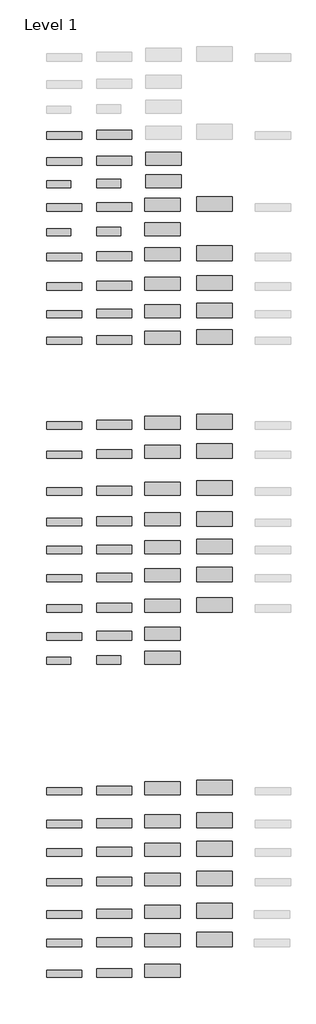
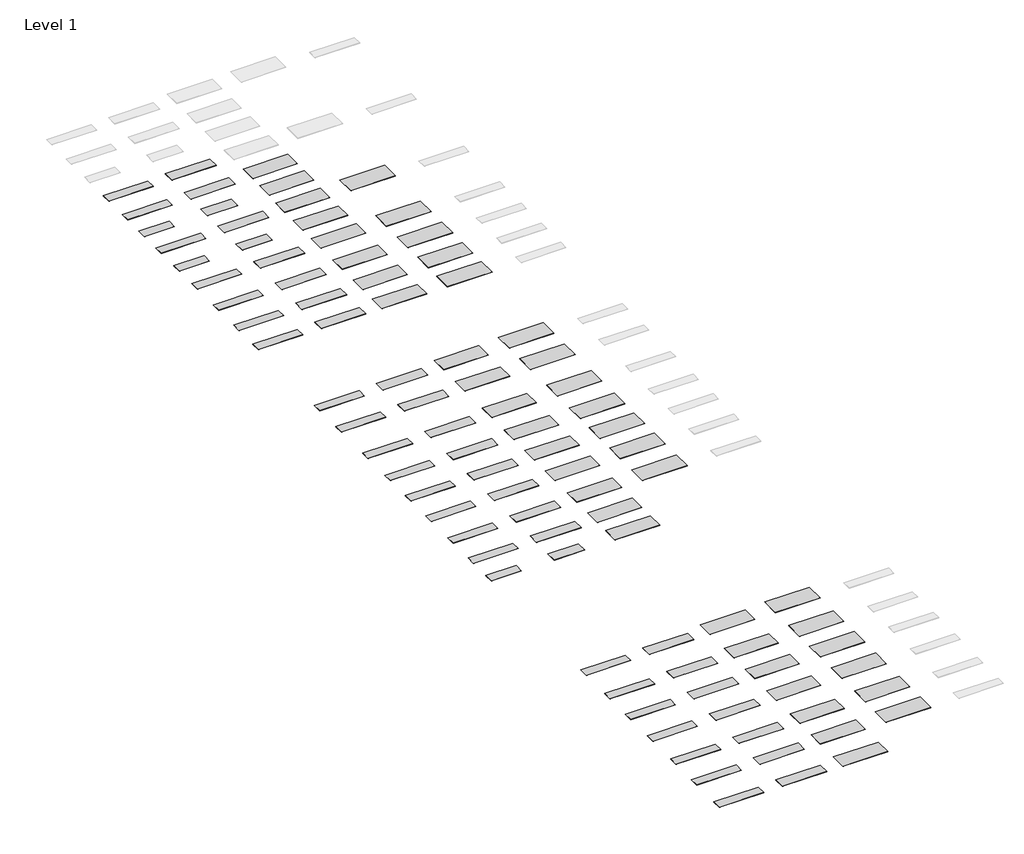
# One storey, part 1 of 2: 92 proxies.
"""IFC4 building model written with IfcOpenShell, lengths in millimetres."""

from ifc_helpers import new_model, si_unit, origin, place, context, project, spatial, transform, mapped, element, save
from components import s001_satin_white_12mm_760x3680mm_7f56e2ab, s001_satin_white_12mm_910x3680mm_ebb0e17e, s001_satin_white_12mm_1350x3680mm_c2ce3097, s001_satin_white_12mm_1520x3680mm_bc4f7f2a, s001_satin_white_6mm_760x2490mm_c0a7b58a, s001_satin_white_6mm_910x2490mm_29e5721c

model = new_model("IFC4")

# Units and contexts
model_context = context("Model", 3, world=origin())
ifc_project = project(units=[si_unit("LENGTHUNIT", "METRE", prefix="MILLI")], contexts=[model_context])

# Site, building, storey
site = spatial("IfcSite", under=ifc_project)
building = spatial("IfcBuilding", under=site)
storey = spatial("IfcBuildingStorey", under=building, Name="Level 1", Elevation=0.0)

# Proxies
placement = place(None, origin())
s001_satin_white_12mm_760x3680mm_shape = s001_satin_white_12mm_760x3680mm_7f56e2ab(model_context)
element("IfcBuildingElementProxy", 1, Name="Kitchen_Counter-Tops_Indoor-Material_HI-MACS_Solids : S102_Babylon-Beige_12mm_760x3680mm", ObjectType="Kitchen_Counter-Tops_Indoor-Material_HI-MACS_Solids : S102_Babylon-Beige_12mm_760x3680mm", at=placement, inside=storey, context=model_context, shape_type="MappedRepresentation", body=[
    mapped(s001_satin_white_12mm_760x3680mm_shape, transform((-20811.8590579, -68063.8627083, 0.0), x_axis=(1.0, 0.0, 0.0), y_axis=(0.0, 1.0, 0.0), z_axis=(0.0, 0.0, 1.0))),
])
element("IfcBuildingElementProxy", 2, Name="Kitchen_Counter-Tops_Indoor-Material_HI-MACS_Solids : S108_Marta-Grey_12mm_760x3680mm", ObjectType="Kitchen_Counter-Tops_Indoor-Material_HI-MACS_Solids : S108_Marta-Grey_12mm_760x3680mm", at=placement, inside=storey, context=model_context, shape_type="MappedRepresentation", body=[
    mapped(s001_satin_white_12mm_760x3680mm_shape, transform((-20811.8590579, -79611.6390607, 0.0), x_axis=(1.0, 0.0, 0.0), y_axis=(0.0, 1.0, 0.0), z_axis=(0.0, 0.0, 1.0))),
])
element("IfcBuildingElementProxy", 3, Name="Kitchen_Counter-Tops_Indoor-Material_HI-MACS_Solids : S025_Fiery-Red_12mm_760x3680mm", ObjectType="Kitchen_Counter-Tops_Indoor-Material_HI-MACS_Solids : S025_Fiery-Red_12mm_760x3680mm", at=placement, inside=storey, context=model_context, shape_type="MappedRepresentation", body=[
    mapped(s001_satin_white_12mm_760x3680mm_shape, transform((-20811.8590579, -92576.3180558, 0.0), x_axis=(1.0, 0.0, 0.0), y_axis=(0.0, 1.0, 0.0), z_axis=(0.0, 0.0, 1.0))),
])
element("IfcBuildingElementProxy", 4, Name="Kitchen_Counter-Tops_Indoor-Material_HI-MACS_Solids : S115_Deep-Indigo_12mm_760x3680mm", ObjectType="Kitchen_Counter-Tops_Indoor-Material_HI-MACS_Solids : S115_Deep-Indigo_12mm_760x3680mm", at=placement, inside=storey, context=model_context, shape_type="MappedRepresentation", body=[
    mapped(s001_satin_white_12mm_760x3680mm_shape, transform((-20811.8590579, -123994.5445632, 0.0), x_axis=(1.0, 0.0, 0.0), y_axis=(0.0, 1.0, 0.0), z_axis=(0.0, 0.0, 1.0))),
])
s001_satin_white_12mm_910x3680mm_shape = s001_satin_white_12mm_910x3680mm_ebb0e17e(model_context)
element("IfcBuildingElementProxy", 5, Name="Kitchen_Counter-Tops_Indoor-Material_HI-MACS_Solids : S102_Babylon-Beige_12mm_910x3680mm", ObjectType="Kitchen_Counter-Tops_Indoor-Material_HI-MACS_Solids : S102_Babylon-Beige_12mm_910x3680mm", at=placement, inside=storey, context=model_context, shape_type="MappedRepresentation", body=[
    mapped(s001_satin_white_12mm_910x3680mm_shape, transform((-15611.8590579, -67988.8627083, 0.0), x_axis=(1.0, 0.0, 0.0), y_axis=(0.0, 1.0, 0.0), z_axis=(0.0, 0.0, 1.0))),
])
s001_satin_white_12mm_1350x3680mm_shape = s001_satin_white_12mm_1350x3680mm_c2ce3097(model_context)
element("IfcBuildingElementProxy", 6, Name="Kitchen_Counter-Tops_Indoor-Material_HI-MACS_Solids : S102_Babylon-Beige_12mm_1350x3680mm", ObjectType="Kitchen_Counter-Tops_Indoor-Material_HI-MACS_Solids : S102_Babylon-Beige_12mm_1350x3680mm", at=placement, inside=storey, context=model_context, shape_type="MappedRepresentation", body=[
    mapped(s001_satin_white_12mm_1350x3680mm_shape, transform((-10611.8590579, -67768.8627083, 0.0), x_axis=(1.0, 0.0, 0.0), y_axis=(0.0, 1.0, 0.0), z_axis=(0.0, 0.0, 1.0))),
])
s001_satin_white_12mm_1520x3680mm_shape = s001_satin_white_12mm_1520x3680mm_bc4f7f2a(model_context)
element("IfcBuildingElementProxy", 7, Name="Kitchen_Counter-Tops_Indoor-Material_HI-MACS_Solids : S102_Babylon-Beige_12mm_1520x3680mm", ObjectType="Kitchen_Counter-Tops_Indoor-Material_HI-MACS_Solids : S102_Babylon-Beige_12mm_1520x3680mm", at=placement, inside=storey, context=model_context, shape_type="MappedRepresentation", body=[
    mapped(s001_satin_white_12mm_1520x3680mm_shape, transform((-5211.8590579, -67683.8627083, 0.0), x_axis=(1.0, 0.0, 0.0), y_axis=(0.0, 1.0, 0.0), z_axis=(0.0, 0.0, 1.0))),
])
element("IfcBuildingElementProxy", 8, Name="Kitchen_Counter-Tops_Indoor-Material_HI-MACS_Solids : S108_Marta-Grey_12mm_910x3680mm", ObjectType="Kitchen_Counter-Tops_Indoor-Material_HI-MACS_Solids : S108_Marta-Grey_12mm_910x3680mm", at=placement, inside=storey, context=model_context, shape_type="MappedRepresentation", body=[
    mapped(s001_satin_white_12mm_910x3680mm_shape, transform((-15611.8590579, -79536.6390607, 0.0), x_axis=(1.0, 0.0, 0.0), y_axis=(0.0, 1.0, 0.0), z_axis=(0.0, 0.0, 1.0))),
])
element("IfcBuildingElementProxy", 9, Name="Kitchen_Counter-Tops_Indoor-Material_HI-MACS_Solids : S108_Marta-Grey_12mm_1350x3680mm", ObjectType="Kitchen_Counter-Tops_Indoor-Material_HI-MACS_Solids : S108_Marta-Grey_12mm_1350x3680mm", at=placement, inside=storey, context=model_context, shape_type="MappedRepresentation", body=[
    mapped(s001_satin_white_12mm_1350x3680mm_shape, transform((-10611.8590579, -79316.6390607, 0.0), x_axis=(1.0, 0.0, 0.0), y_axis=(0.0, 1.0, 0.0), z_axis=(0.0, 0.0, 1.0))),
])
element("IfcBuildingElementProxy", 10, Name="Kitchen_Counter-Tops_Indoor-Material_HI-MACS_Solids : S108_Marta-Grey_12mm_1520x3680mm", ObjectType="Kitchen_Counter-Tops_Indoor-Material_HI-MACS_Solids : S108_Marta-Grey_12mm_1520x3680mm", at=placement, inside=storey, context=model_context, shape_type="MappedRepresentation", body=[
    mapped(s001_satin_white_12mm_1520x3680mm_shape, transform((-5211.8590579, -79231.6390607, 0.0), x_axis=(1.0, 0.0, 0.0), y_axis=(0.0, 1.0, 0.0), z_axis=(0.0, 0.0, 1.0))),
])
element("IfcBuildingElementProxy", 11, Name="Kitchen_Counter-Tops_Indoor-Material_HI-MACS_Solids : S025_Fiery-Red_12mm_910x3680mm", ObjectType="Kitchen_Counter-Tops_Indoor-Material_HI-MACS_Solids : S025_Fiery-Red_12mm_910x3680mm", at=placement, inside=storey, context=model_context, shape_type="MappedRepresentation", body=[
    mapped(s001_satin_white_12mm_910x3680mm_shape, transform((-15611.8590579, -92501.3180558, 0.0), x_axis=(1.0, 0.0, 0.0), y_axis=(0.0, 1.0, 0.0), z_axis=(0.0, 0.0, 1.0))),
])
element("IfcBuildingElementProxy", 12, Name="Kitchen_Counter-Tops_Indoor-Material_HI-MACS_Solids : S025_Fiery-Red_12mm_1350x3680mm", ObjectType="Kitchen_Counter-Tops_Indoor-Material_HI-MACS_Solids : S025_Fiery-Red_12mm_1350x3680mm", at=placement, inside=storey, context=model_context, shape_type="MappedRepresentation", body=[
    mapped(s001_satin_white_12mm_1350x3680mm_shape, transform((-10611.8590579, -92281.3180558, 0.0), x_axis=(1.0, 0.0, 0.0), y_axis=(0.0, 1.0, 0.0), z_axis=(0.0, 0.0, 1.0))),
])
element("IfcBuildingElementProxy", 13, Name="Kitchen_Counter-Tops_Indoor-Material_HI-MACS_Solids : S025_Fiery-Red_12mm_1520x3680mm", ObjectType="Kitchen_Counter-Tops_Indoor-Material_HI-MACS_Solids : S025_Fiery-Red_12mm_1520x3680mm", at=placement, inside=storey, context=model_context, shape_type="MappedRepresentation", body=[
    mapped(s001_satin_white_12mm_1520x3680mm_shape, transform((-5211.8590579, -92196.3180558, 0.0), x_axis=(1.0, 0.0, 0.0), y_axis=(0.0, 1.0, 0.0), z_axis=(0.0, 0.0, 1.0))),
])
element("IfcBuildingElementProxy", 14, Name="Kitchen_Counter-Tops_Indoor-Material_HI-MACS_Solids : S115_Deep-Indigo_12mm_910x3680mm", ObjectType="Kitchen_Counter-Tops_Indoor-Material_HI-MACS_Solids : S115_Deep-Indigo_12mm_910x3680mm", at=placement, inside=storey, context=model_context, shape_type="MappedRepresentation", body=[
    mapped(s001_satin_white_12mm_910x3680mm_shape, transform((-15611.8590579, -123919.5445632, 0.0), x_axis=(1.0, 0.0, 0.0), y_axis=(0.0, 1.0, 0.0), z_axis=(0.0, 0.0, 1.0))),
])
element("IfcBuildingElementProxy", 15, Name="Kitchen_Counter-Tops_Indoor-Material_HI-MACS_Solids : S115_Deep-Indigo_12mm_1350x3680mm", ObjectType="Kitchen_Counter-Tops_Indoor-Material_HI-MACS_Solids : S115_Deep-Indigo_12mm_1350x3680mm", at=placement, inside=storey, context=model_context, shape_type="MappedRepresentation", body=[
    mapped(s001_satin_white_12mm_1350x3680mm_shape, transform((-10611.8590579, -123699.5445632, 0.0), x_axis=(1.0, 0.0, 0.0), y_axis=(0.0, 1.0, 0.0), z_axis=(0.0, 0.0, 1.0))),
])
element("IfcBuildingElementProxy", 16, Name="Kitchen_Counter-Tops_Indoor-Material_HI-MACS_Solids : S115_Deep-Indigo_12mm_1520x3680mm", ObjectType="Kitchen_Counter-Tops_Indoor-Material_HI-MACS_Solids : S115_Deep-Indigo_12mm_1520x3680mm", at=placement, inside=storey, context=model_context, shape_type="MappedRepresentation", body=[
    mapped(s001_satin_white_12mm_1520x3680mm_shape, transform((-5211.8590579, -123614.5445632, 0.0), x_axis=(1.0, 0.0, 0.0), y_axis=(0.0, 1.0, 0.0), z_axis=(0.0, 0.0, 1.0))),
])
element("IfcBuildingElementProxy", 17, Name="Kitchen_Counter-Tops_Indoor-Material_HI-MACS_Solids : S001_Satin-White_12mm_760x3680mm", ObjectType="Kitchen_Counter-Tops_Indoor-Material_HI-MACS_Solids : S001_Satin-White_12mm_760x3680mm", at=placement, inside=storey, context=model_context, shape_type="MappedRepresentation", body=[
    mapped(s001_satin_white_12mm_760x3680mm_shape, transform((-20812.5064865, -49472.1888204, 0.0), x_axis=(1.0, 0.0, 0.0), y_axis=(0.0, 1.0, 0.0), z_axis=(0.0, 0.0, 1.0))),
])
element("IfcBuildingElementProxy", 18, Name="Kitchen_Counter-Tops_Indoor-Material_HI-MACS_Solids : S001_Satin-White_12mm_910x3680mm", ObjectType="Kitchen_Counter-Tops_Indoor-Material_HI-MACS_Solids : S001_Satin-White_12mm_910x3680mm", at=placement, inside=storey, context=model_context, shape_type="MappedRepresentation", body=[
    mapped(s001_satin_white_12mm_910x3680mm_shape, transform((-15611.8590579, -49397.1888204, 0.0), x_axis=(1.0, 0.0, 0.0), y_axis=(0.0, 1.0, 0.0), z_axis=(0.0, 0.0, 1.0))),
])
element("IfcBuildingElementProxy", 19, Name="Kitchen_Counter-Tops_Indoor-Material_HI-MACS_Solids : S001_Satin-White_6mm_1350x3680mm", ObjectType="Kitchen_Counter-Tops_Indoor-Material_HI-MACS_Solids : S001_Satin-White_6mm_1350x3680mm", at=placement, inside=storey, context=model_context, shape_type="MappedRepresentation", body=[
    mapped(s001_satin_white_12mm_1350x3680mm_shape, transform((-10511.8590579, -54257.1888204, 0.0), x_axis=(1.0, 0.0, 0.0), y_axis=(0.0, 1.0, 0.0), z_axis=(0.0, 0.0, 1.0))),
])
s001_satin_white_6mm_760x2490mm_shape = s001_satin_white_6mm_760x2490mm_c0a7b58a(model_context)
element("IfcBuildingElementProxy", 20, Name="Kitchen_Counter-Tops_Indoor-Material_HI-MACS_Solids : S001_Satin-White_6mm_760x2490mm", ObjectType="Kitchen_Counter-Tops_Indoor-Material_HI-MACS_Solids : S001_Satin-White_6mm_760x2490mm", at=placement, inside=storey, context=model_context, shape_type="MappedRepresentation", body=[
    mapped(s001_satin_white_6mm_760x2490mm_shape, transform((-21407.5064865, -54552.1888204, 0.0), x_axis=(1.0, 0.0, 0.0), y_axis=(0.0, 1.0, 0.0), z_axis=(0.0, 0.0, 1.0))),
])
s001_satin_white_6mm_910x2490mm_shape = s001_satin_white_6mm_910x2490mm_29e5721c(model_context)
element("IfcBuildingElementProxy", 21, Name="Kitchen_Counter-Tops_Indoor-Material_HI-MACS_Solids : S001_Satin-White_6mm_910x2490mm", ObjectType="Kitchen_Counter-Tops_Indoor-Material_HI-MACS_Solids : S001_Satin-White_6mm_910x2490mm", at=placement, inside=storey, context=model_context, shape_type="MappedRepresentation", body=[
    mapped(s001_satin_white_6mm_910x2490mm_shape, transform((-16206.8590579, -54477.1888204, 0.0), x_axis=(1.0, 0.0, 0.0), y_axis=(0.0, 1.0, 0.0), z_axis=(0.0, 0.0, 1.0))),
])
element("IfcBuildingElementProxy", 22, Name="Kitchen_Counter-Tops_Indoor-Material_HI-MACS_Solids : S001_Satin-White_9mm_1350x3680mm", ObjectType="Kitchen_Counter-Tops_Indoor-Material_HI-MACS_Solids : S001_Satin-White_9mm_1350x3680mm", at=placement, inside=storey, context=model_context, shape_type="MappedRepresentation", body=[
    mapped(s001_satin_white_12mm_1350x3680mm_shape, transform((-10511.8590579, -51877.1888204, 0.0), x_axis=(1.0, 0.0, 0.0), y_axis=(0.0, 1.0, 0.0), z_axis=(0.0, 0.0, 1.0))),
])
element("IfcBuildingElementProxy", 23, Name="Kitchen_Counter-Tops_Indoor-Material_HI-MACS_Solids : S001_Satin-White_9mm_760x3680mm", ObjectType="Kitchen_Counter-Tops_Indoor-Material_HI-MACS_Solids : S001_Satin-White_9mm_760x3680mm", at=placement, inside=storey, context=model_context, shape_type="MappedRepresentation", body=[
    mapped(s001_satin_white_12mm_760x3680mm_shape, transform((-20812.5064865, -52172.1888204, 0.0), x_axis=(1.0, 0.0, 0.0), y_axis=(0.0, 1.0, 0.0), z_axis=(0.0, 0.0, 1.0))),
])
element("IfcBuildingElementProxy", 24, Name="Kitchen_Counter-Tops_Indoor-Material_HI-MACS_Solids : S001_Satin-White_9mm_910x3680mm", ObjectType="Kitchen_Counter-Tops_Indoor-Material_HI-MACS_Solids : S001_Satin-White_9mm_910x3680mm", at=placement, inside=storey, context=model_context, shape_type="MappedRepresentation", body=[
    mapped(s001_satin_white_12mm_910x3680mm_shape, transform((-15611.8590579, -52097.1888204, 0.0), x_axis=(1.0, 0.0, 0.0), y_axis=(0.0, 1.0, 0.0), z_axis=(0.0, 0.0, 1.0))),
])
element("IfcBuildingElementProxy", 25, Name="Kitchen_Counter-Tops_Indoor-Material_HI-MACS_Solids : S002_Almond_12mm_1350x3680mm", ObjectType="Kitchen_Counter-Tops_Indoor-Material_HI-MACS_Solids : S002_Almond_12mm_1350x3680mm", at=placement, inside=storey, context=model_context, shape_type="MappedRepresentation", body=[
    mapped(s001_satin_white_12mm_1350x3680mm_shape, transform((-10611.8590579, -64877.1888204, 0.0), x_axis=(1.0, 0.0, 0.0), y_axis=(0.0, 1.0, 0.0), z_axis=(0.0, 0.0, 1.0))),
])
element("IfcBuildingElementProxy", 26, Name="Kitchen_Counter-Tops_Indoor-Material_HI-MACS_Solids : S002_Almond_12mm_1520x3680mm", ObjectType="Kitchen_Counter-Tops_Indoor-Material_HI-MACS_Solids : S002_Almond_12mm_1520x3680mm", at=placement, inside=storey, context=model_context, shape_type="MappedRepresentation", body=[
    mapped(s001_satin_white_12mm_1520x3680mm_shape, transform((-5211.8590579, -64792.1888204, 0.0), x_axis=(1.0, 0.0, 0.0), y_axis=(0.0, 1.0, 0.0), z_axis=(0.0, 0.0, 1.0))),
])
element("IfcBuildingElementProxy", 27, Name="Kitchen_Counter-Tops_Indoor-Material_HI-MACS_Solids : S002_Almond_12mm_760x3680mm", ObjectType="Kitchen_Counter-Tops_Indoor-Material_HI-MACS_Solids : S002_Almond_12mm_760x3680mm", at=placement, inside=storey, context=model_context, shape_type="MappedRepresentation", body=[
    mapped(s001_satin_white_12mm_760x3680mm_shape, transform((-20811.8590579, -65172.1888204, 0.0), x_axis=(1.0, 0.0, 0.0), y_axis=(0.0, 1.0, 0.0), z_axis=(0.0, 0.0, 1.0))),
])
element("IfcBuildingElementProxy", 28, Name="Kitchen_Counter-Tops_Indoor-Material_HI-MACS_Solids : S002_Almond_12mm_910x3680mm", ObjectType="Kitchen_Counter-Tops_Indoor-Material_HI-MACS_Solids : S002_Almond_12mm_910x3680mm", at=placement, inside=storey, context=model_context, shape_type="MappedRepresentation", body=[
    mapped(s001_satin_white_12mm_910x3680mm_shape, transform((-15611.8590579, -65097.1888204, 0.0), x_axis=(1.0, 0.0, 0.0), y_axis=(0.0, 1.0, 0.0), z_axis=(0.0, 0.0, 1.0))),
])
element("IfcBuildingElementProxy", 29, Name="Kitchen_Counter-Tops_Indoor-Material_HI-MACS_Solids : S005_Grey_12mm_1350x3680mm", ObjectType="Kitchen_Counter-Tops_Indoor-Material_HI-MACS_Solids : S005_Grey_12mm_1350x3680mm", at=placement, inside=storey, context=model_context, shape_type="MappedRepresentation", body=[
    mapped(s001_satin_white_12mm_1350x3680mm_shape, transform((-10611.8590579, -98342.3328205, 0.0), x_axis=(1.0, 0.0, 0.0), y_axis=(0.0, 1.0, 0.0), z_axis=(0.0, 0.0, 1.0))),
])
element("IfcBuildingElementProxy", 30, Name="Kitchen_Counter-Tops_Indoor-Material_HI-MACS_Solids : S005_Grey_12mm_1520x3680mm", ObjectType="Kitchen_Counter-Tops_Indoor-Material_HI-MACS_Solids : S005_Grey_12mm_1520x3680mm", at=placement, inside=storey, context=model_context, shape_type="MappedRepresentation", body=[
    mapped(s001_satin_white_12mm_1520x3680mm_shape, transform((-5211.8590579, -98257.3328205, 0.0), x_axis=(1.0, 0.0, 0.0), y_axis=(0.0, 1.0, 0.0), z_axis=(0.0, 0.0, 1.0))),
])
element("IfcBuildingElementProxy", 31, Name="Kitchen_Counter-Tops_Indoor-Material_HI-MACS_Solids : S005_Grey_12mm_760x3680mm", ObjectType="Kitchen_Counter-Tops_Indoor-Material_HI-MACS_Solids : S005_Grey_12mm_760x3680mm", at=placement, inside=storey, context=model_context, shape_type="MappedRepresentation", body=[
    mapped(s001_satin_white_12mm_760x3680mm_shape, transform((-20811.8590579, -98637.3328205, 0.0), x_axis=(1.0, 0.0, 0.0), y_axis=(0.0, 1.0, 0.0), z_axis=(0.0, 0.0, 1.0))),
])
element("IfcBuildingElementProxy", 32, Name="Kitchen_Counter-Tops_Indoor-Material_HI-MACS_Solids : S005_Grey_12mm_910x3680mm", ObjectType="Kitchen_Counter-Tops_Indoor-Material_HI-MACS_Solids : S005_Grey_12mm_910x3680mm", at=placement, inside=storey, context=model_context, shape_type="MappedRepresentation", body=[
    mapped(s001_satin_white_12mm_910x3680mm_shape, transform((-15611.8590579, -98562.3328205, 0.0), x_axis=(1.0, 0.0, 0.0), y_axis=(0.0, 1.0, 0.0), z_axis=(0.0, 0.0, 1.0))),
])
element("IfcBuildingElementProxy", 33, Name="Kitchen_Counter-Tops_Indoor-Material_HI-MACS_Solids : S005_Grey_6mm_1350x3680mm", ObjectType="Kitchen_Counter-Tops_Indoor-Material_HI-MACS_Solids : S005_Grey_6mm_1350x3680mm", at=placement, inside=storey, context=model_context, shape_type="MappedRepresentation", body=[
    mapped(s001_satin_white_12mm_1350x3680mm_shape, transform((-10611.8590579, -103782.3328205, 0.0), x_axis=(1.0, 0.0, 0.0), y_axis=(0.0, 1.0, 0.0), z_axis=(0.0, 0.0, 1.0))),
])
element("IfcBuildingElementProxy", 34, Name="Kitchen_Counter-Tops_Indoor-Material_HI-MACS_Solids : S005_Grey_6mm_760x2490mm", ObjectType="Kitchen_Counter-Tops_Indoor-Material_HI-MACS_Solids : S005_Grey_6mm_760x2490mm", at=placement, inside=storey, context=model_context, shape_type="MappedRepresentation", body=[
    mapped(s001_satin_white_6mm_760x2490mm_shape, transform((-21406.8590579, -104077.3328205, 0.0), x_axis=(1.0, 0.0, 0.0), y_axis=(0.0, 1.0, 0.0), z_axis=(0.0, 0.0, 1.0))),
])
element("IfcBuildingElementProxy", 35, Name="Kitchen_Counter-Tops_Indoor-Material_HI-MACS_Solids : S005_Grey_6mm_910x2490mm", ObjectType="Kitchen_Counter-Tops_Indoor-Material_HI-MACS_Solids : S005_Grey_6mm_910x2490mm", at=placement, inside=storey, context=model_context, shape_type="MappedRepresentation", body=[
    mapped(s001_satin_white_6mm_910x2490mm_shape, transform((-16206.8590579, -104002.3328205, 0.0), x_axis=(1.0, 0.0, 0.0), y_axis=(0.0, 1.0, 0.0), z_axis=(0.0, 0.0, 1.0))),
])
element("IfcBuildingElementProxy", 36, Name="Kitchen_Counter-Tops_Indoor-Material_HI-MACS_Solids : S005_Grey_9mm_1350x3680mm", ObjectType="Kitchen_Counter-Tops_Indoor-Material_HI-MACS_Solids : S005_Grey_9mm_1350x3680mm", at=placement, inside=storey, context=model_context, shape_type="MappedRepresentation", body=[
    mapped(s001_satin_white_12mm_1350x3680mm_shape, transform((-10611.8590579, -101242.3328205, 0.0), x_axis=(1.0, 0.0, 0.0), y_axis=(0.0, 1.0, 0.0), z_axis=(0.0, 0.0, 1.0))),
])
element("IfcBuildingElementProxy", 37, Name="Kitchen_Counter-Tops_Indoor-Material_HI-MACS_Solids : S005_Grey_9mm_760x3680mm", ObjectType="Kitchen_Counter-Tops_Indoor-Material_HI-MACS_Solids : S005_Grey_9mm_760x3680mm", at=placement, inside=storey, context=model_context, shape_type="MappedRepresentation", body=[
    mapped(s001_satin_white_12mm_760x3680mm_shape, transform((-20811.8590579, -101537.3328205, 0.0), x_axis=(1.0, 0.0, 0.0), y_axis=(0.0, 1.0, 0.0), z_axis=(0.0, 0.0, 1.0))),
])
element("IfcBuildingElementProxy", 38, Name="Kitchen_Counter-Tops_Indoor-Material_HI-MACS_Solids : S005_Grey_9mm_910x3680mm", ObjectType="Kitchen_Counter-Tops_Indoor-Material_HI-MACS_Solids : S005_Grey_9mm_910x3680mm", at=placement, inside=storey, context=model_context, shape_type="MappedRepresentation", body=[
    mapped(s001_satin_white_12mm_910x3680mm_shape, transform((-15611.8590579, -101462.3328205, 0.0), x_axis=(1.0, 0.0, 0.0), y_axis=(0.0, 1.0, 0.0), z_axis=(0.0, 0.0, 1.0))),
])
element("IfcBuildingElementProxy", 39, Name="Kitchen_Counter-Tops_Indoor-Material_HI-MACS_Solids : S009_Cream_12mm_1350x3680mm", ObjectType="Kitchen_Counter-Tops_Indoor-Material_HI-MACS_Solids : S009_Cream_12mm_1350x3680mm", at=placement, inside=storey, context=model_context, shape_type="MappedRepresentation", body=[
    mapped(s001_satin_white_12mm_1350x3680mm_shape, transform((-10611.8590579, -56684.5477152, 0.0), x_axis=(1.0, 0.0, 0.0), y_axis=(0.0, 1.0, 0.0), z_axis=(0.0, 0.0, 1.0))),
])
element("IfcBuildingElementProxy", 40, Name="Kitchen_Counter-Tops_Indoor-Material_HI-MACS_Solids : S009_Cream_12mm_1520x3680mm", ObjectType="Kitchen_Counter-Tops_Indoor-Material_HI-MACS_Solids : S009_Cream_12mm_1520x3680mm", at=placement, inside=storey, context=model_context, shape_type="MappedRepresentation", body=[
    mapped(s001_satin_white_12mm_1520x3680mm_shape, transform((-5211.8590579, -56599.5477152, 0.0), x_axis=(1.0, 0.0, 0.0), y_axis=(0.0, 1.0, 0.0), z_axis=(0.0, 0.0, 1.0))),
])
element("IfcBuildingElementProxy", 41, Name="Kitchen_Counter-Tops_Indoor-Material_HI-MACS_Solids : S009_Cream_12mm_760x3680mm", ObjectType="Kitchen_Counter-Tops_Indoor-Material_HI-MACS_Solids : S009_Cream_12mm_760x3680mm", at=placement, inside=storey, context=model_context, shape_type="MappedRepresentation", body=[
    mapped(s001_satin_white_12mm_760x3680mm_shape, transform((-20812.5064865, -56979.5477152, 0.0), x_axis=(1.0, 0.0, 0.0), y_axis=(0.0, 1.0, 0.0), z_axis=(0.0, 0.0, 1.0))),
])
element("IfcBuildingElementProxy", 42, Name="Kitchen_Counter-Tops_Indoor-Material_HI-MACS_Solids : S009_Cream_12mm_910x3680mm", ObjectType="Kitchen_Counter-Tops_Indoor-Material_HI-MACS_Solids : S009_Cream_12mm_910x3680mm", at=placement, inside=storey, context=model_context, shape_type="MappedRepresentation", body=[
    mapped(s001_satin_white_12mm_910x3680mm_shape, transform((-15611.8590579, -56904.5477152, 0.0), x_axis=(1.0, 0.0, 0.0), y_axis=(0.0, 1.0, 0.0), z_axis=(0.0, 0.0, 1.0))),
])
element("IfcBuildingElementProxy", 43, Name="Kitchen_Counter-Tops_Indoor-Material_HI-MACS_Solids : S009_Cream_6mm_1350x3680mm", ObjectType="Kitchen_Counter-Tops_Indoor-Material_HI-MACS_Solids : S009_Cream_6mm_1350x3680mm", at=placement, inside=storey, context=model_context, shape_type="MappedRepresentation", body=[
    mapped(s001_satin_white_12mm_1350x3680mm_shape, transform((-10611.8590579, -59244.5477152, 0.0), x_axis=(1.0, 0.0, 0.0), y_axis=(0.0, 1.0, 0.0), z_axis=(0.0, 0.0, 1.0))),
])
element("IfcBuildingElementProxy", 44, Name="Kitchen_Counter-Tops_Indoor-Material_HI-MACS_Solids : S009_Cream_6mm_760x2490mm", ObjectType="Kitchen_Counter-Tops_Indoor-Material_HI-MACS_Solids : S009_Cream_6mm_760x2490mm", at=placement, inside=storey, context=model_context, shape_type="MappedRepresentation", body=[
    mapped(s001_satin_white_6mm_760x2490mm_shape, transform((-21407.5064865, -59539.5477152, 0.0), x_axis=(1.0, 0.0, 0.0), y_axis=(0.0, 1.0, 0.0), z_axis=(0.0, 0.0, 1.0))),
])
element("IfcBuildingElementProxy", 45, Name="Kitchen_Counter-Tops_Indoor-Material_HI-MACS_Solids : S009_Cream_6mm_910x2490mm", ObjectType="Kitchen_Counter-Tops_Indoor-Material_HI-MACS_Solids : S009_Cream_6mm_910x2490mm", at=placement, inside=storey, context=model_context, shape_type="MappedRepresentation", body=[
    mapped(s001_satin_white_6mm_910x2490mm_shape, transform((-16206.8590579, -59464.5477152, 0.0), x_axis=(1.0, 0.0, 0.0), y_axis=(0.0, 1.0, 0.0), z_axis=(0.0, 0.0, 1.0))),
])
element("IfcBuildingElementProxy", 46, Name="Kitchen_Counter-Tops_Indoor-Material_HI-MACS_Solids : S022_Black_12mm_1350x3680mm", ObjectType="Kitchen_Counter-Tops_Indoor-Material_HI-MACS_Solids : S022_Black_12mm_1350x3680mm", at=placement, inside=storey, context=model_context, shape_type="MappedRepresentation", body=[
    mapped(s001_satin_white_12mm_1350x3680mm_shape, transform((-10611.8590579, -133111.0645662, 0.0), x_axis=(1.0, 0.0, 0.0), y_axis=(0.0, 1.0, 0.0), z_axis=(0.0, 0.0, 1.0))),
])
element("IfcBuildingElementProxy", 47, Name="Kitchen_Counter-Tops_Indoor-Material_HI-MACS_Solids : S022_Black_12mm_1520x3680mm", ObjectType="Kitchen_Counter-Tops_Indoor-Material_HI-MACS_Solids : S022_Black_12mm_1520x3680mm", at=placement, inside=storey, context=model_context, shape_type="MappedRepresentation", body=[
    mapped(s001_satin_white_12mm_1520x3680mm_shape, transform((-5211.8590579, -133026.0645662, 0.0), x_axis=(1.0, 0.0, 0.0), y_axis=(0.0, 1.0, 0.0), z_axis=(0.0, 0.0, 1.0))),
])
element("IfcBuildingElementProxy", 48, Name="Kitchen_Counter-Tops_Indoor-Material_HI-MACS_Solids : S022_Black_12mm_760x3680mm", ObjectType="Kitchen_Counter-Tops_Indoor-Material_HI-MACS_Solids : S022_Black_12mm_760x3680mm", at=placement, inside=storey, context=model_context, shape_type="MappedRepresentation", body=[
    mapped(s001_satin_white_12mm_760x3680mm_shape, transform((-20811.8590579, -133406.0645662, 0.0), x_axis=(1.0, 0.0, 0.0), y_axis=(0.0, 1.0, 0.0), z_axis=(0.0, 0.0, 1.0))),
])
element("IfcBuildingElementProxy", 49, Name="Kitchen_Counter-Tops_Indoor-Material_HI-MACS_Solids : S022_Black_12mm_910x3680mm", ObjectType="Kitchen_Counter-Tops_Indoor-Material_HI-MACS_Solids : S022_Black_12mm_910x3680mm", at=placement, inside=storey, context=model_context, shape_type="MappedRepresentation", body=[
    mapped(s001_satin_white_12mm_910x3680mm_shape, transform((-15611.8590579, -133331.0645662, 0.0), x_axis=(1.0, 0.0, 0.0), y_axis=(0.0, 1.0, 0.0), z_axis=(0.0, 0.0, 1.0))),
])
element("IfcBuildingElementProxy", 50, Name="Kitchen_Counter-Tops_Indoor-Material_HI-MACS_Solids : S022_Black_9mm_1350x3680mm", ObjectType="Kitchen_Counter-Tops_Indoor-Material_HI-MACS_Solids : S022_Black_9mm_1350x3680mm", at=placement, inside=storey, context=model_context, shape_type="MappedRepresentation", body=[
    mapped(s001_satin_white_12mm_1350x3680mm_shape, transform((-10611.8590579, -136311.0645662, 0.0), x_axis=(1.0, 0.0, 0.0), y_axis=(0.0, 1.0, 0.0), z_axis=(0.0, 0.0, 1.0))),
])
element("IfcBuildingElementProxy", 51, Name="Kitchen_Counter-Tops_Indoor-Material_HI-MACS_Solids : S022_Black_9mm_760x3680mm", ObjectType="Kitchen_Counter-Tops_Indoor-Material_HI-MACS_Solids : S022_Black_9mm_760x3680mm", at=placement, inside=storey, context=model_context, shape_type="MappedRepresentation", body=[
    mapped(s001_satin_white_12mm_760x3680mm_shape, transform((-20811.8590579, -136606.0645662, 0.0), x_axis=(1.0, 0.0, 0.0), y_axis=(0.0, 1.0, 0.0), z_axis=(0.0, 0.0, 1.0))),
])
element("IfcBuildingElementProxy", 52, Name="Kitchen_Counter-Tops_Indoor-Material_HI-MACS_Solids : S022_Black_9mm_910x3680mm", ObjectType="Kitchen_Counter-Tops_Indoor-Material_HI-MACS_Solids : S022_Black_9mm_910x3680mm", at=placement, inside=storey, context=model_context, shape_type="MappedRepresentation", body=[
    mapped(s001_satin_white_12mm_910x3680mm_shape, transform((-15611.8590579, -136531.0645662, 0.0), x_axis=(1.0, 0.0, 0.0), y_axis=(0.0, 1.0, 0.0), z_axis=(0.0, 0.0, 1.0))),
])
element("IfcBuildingElementProxy", 53, Name="Kitchen_Counter-Tops_Indoor-Material_HI-MACS_Solids : S026_Banana_12mm_1350x3680mm", ObjectType="Kitchen_Counter-Tops_Indoor-Material_HI-MACS_Solids : S026_Banana_12mm_1350x3680mm", at=placement, inside=storey, context=model_context, shape_type="MappedRepresentation", body=[
    mapped(s001_satin_white_12mm_1350x3680mm_shape, transform((-10611.8590579, -86183.1812251, 0.0), x_axis=(1.0, 0.0, 0.0), y_axis=(0.0, 1.0, 0.0), z_axis=(0.0, 0.0, 1.0))),
])
element("IfcBuildingElementProxy", 54, Name="Kitchen_Counter-Tops_Indoor-Material_HI-MACS_Solids : S026_Banana_12mm_1520x3680mm", ObjectType="Kitchen_Counter-Tops_Indoor-Material_HI-MACS_Solids : S026_Banana_12mm_1520x3680mm", at=placement, inside=storey, context=model_context, shape_type="MappedRepresentation", body=[
    mapped(s001_satin_white_12mm_1520x3680mm_shape, transform((-5211.8590579, -86098.1812251, 0.0), x_axis=(1.0, 0.0, 0.0), y_axis=(0.0, 1.0, 0.0), z_axis=(0.0, 0.0, 1.0))),
])
element("IfcBuildingElementProxy", 55, Name="Kitchen_Counter-Tops_Indoor-Material_HI-MACS_Solids : S026_Banana_12mm_760x3680mm", ObjectType="Kitchen_Counter-Tops_Indoor-Material_HI-MACS_Solids : S026_Banana_12mm_760x3680mm", at=placement, inside=storey, context=model_context, shape_type="MappedRepresentation", body=[
    mapped(s001_satin_white_12mm_760x3680mm_shape, transform((-20811.8590579, -86478.1812251, 0.0), x_axis=(1.0, 0.0, 0.0), y_axis=(0.0, 1.0, 0.0), z_axis=(0.0, 0.0, 1.0))),
])
element("IfcBuildingElementProxy", 56, Name="Kitchen_Counter-Tops_Indoor-Material_HI-MACS_Solids : S026_Banana_12mm_910x3680mm", ObjectType="Kitchen_Counter-Tops_Indoor-Material_HI-MACS_Solids : S026_Banana_12mm_910x3680mm", at=placement, inside=storey, context=model_context, shape_type="MappedRepresentation", body=[
    mapped(s001_satin_white_12mm_910x3680mm_shape, transform((-15611.8590579, -86403.1812251, 0.0), x_axis=(1.0, 0.0, 0.0), y_axis=(0.0, 1.0, 0.0), z_axis=(0.0, 0.0, 1.0))),
])
element("IfcBuildingElementProxy", 57, Name="Kitchen_Counter-Tops_Indoor-Material_HI-MACS_Solids : S027_Orange_12mm_1350x3680mm", ObjectType="Kitchen_Counter-Tops_Indoor-Material_HI-MACS_Solids : S027_Orange_12mm_1350x3680mm", at=placement, inside=storey, context=model_context, shape_type="MappedRepresentation", body=[
    mapped(s001_satin_white_12mm_1350x3680mm_shape, transform((-10611.8590579, -89356.9760659, 0.0), x_axis=(1.0, 0.0, 0.0), y_axis=(0.0, 1.0, 0.0), z_axis=(0.0, 0.0, 1.0))),
])
element("IfcBuildingElementProxy", 58, Name="Kitchen_Counter-Tops_Indoor-Material_HI-MACS_Solids : S027_Orange_12mm_1520x3680mm", ObjectType="Kitchen_Counter-Tops_Indoor-Material_HI-MACS_Solids : S027_Orange_12mm_1520x3680mm", at=placement, inside=storey, context=model_context, shape_type="MappedRepresentation", body=[
    mapped(s001_satin_white_12mm_1520x3680mm_shape, transform((-5211.8590579, -89356.9760659, 0.0), x_axis=(1.0, 0.0, 0.0), y_axis=(0.0, 1.0, 0.0), z_axis=(0.0, 0.0, 1.0))),
])
element("IfcBuildingElementProxy", 59, Name="Kitchen_Counter-Tops_Indoor-Material_HI-MACS_Solids : S027_Orange_12mm_760x3680mm", ObjectType="Kitchen_Counter-Tops_Indoor-Material_HI-MACS_Solids : S027_Orange_12mm_760x3680mm", at=placement, inside=storey, context=model_context, shape_type="MappedRepresentation", body=[
    mapped(s001_satin_white_12mm_760x3680mm_shape, transform((-20811.8590579, -89651.9760659, 0.0), x_axis=(1.0, 0.0, 0.0), y_axis=(0.0, 1.0, 0.0), z_axis=(0.0, 0.0, 1.0))),
])
element("IfcBuildingElementProxy", 60, Name="Kitchen_Counter-Tops_Indoor-Material_HI-MACS_Solids : S027_Orange_12mm_910x3680mm", ObjectType="Kitchen_Counter-Tops_Indoor-Material_HI-MACS_Solids : S027_Orange_12mm_910x3680mm", at=placement, inside=storey, context=model_context, shape_type="MappedRepresentation", body=[
    mapped(s001_satin_white_12mm_910x3680mm_shape, transform((-15611.8590579, -89576.9760659, 0.0), x_axis=(1.0, 0.0, 0.0), y_axis=(0.0, 1.0, 0.0), z_axis=(0.0, 0.0, 1.0))),
])
element("IfcBuildingElementProxy", 61, Name="Kitchen_Counter-Tops_Indoor-Material_HI-MACS_Solids : S100_Coffee-Brown_12mm_1350x3680mm", ObjectType="Kitchen_Counter-Tops_Indoor-Material_HI-MACS_Solids : S100_Coffee-Brown_12mm_1350x3680mm", at=placement, inside=storey, context=model_context, shape_type="MappedRepresentation", body=[
    mapped(s001_satin_white_12mm_1350x3680mm_shape, transform((-10611.8590579, -130143.3976089, 0.0), x_axis=(1.0, 0.0, 0.0), y_axis=(0.0, 1.0, 0.0), z_axis=(0.0, 0.0, 1.0))),
])
element("IfcBuildingElementProxy", 62, Name="Kitchen_Counter-Tops_Indoor-Material_HI-MACS_Solids : S100_Coffee-Brown_12mm_1520x3680mm", ObjectType="Kitchen_Counter-Tops_Indoor-Material_HI-MACS_Solids : S100_Coffee-Brown_12mm_1520x3680mm", at=placement, inside=storey, context=model_context, shape_type="MappedRepresentation", body=[
    mapped(s001_satin_white_12mm_1520x3680mm_shape, transform((-5211.8590579, -130058.3976089, 0.0), x_axis=(1.0, 0.0, 0.0), y_axis=(0.0, 1.0, 0.0), z_axis=(0.0, 0.0, 1.0))),
])
element("IfcBuildingElementProxy", 63, Name="Kitchen_Counter-Tops_Indoor-Material_HI-MACS_Solids : S100_Coffee-Brown_12mm_760x3680mm", ObjectType="Kitchen_Counter-Tops_Indoor-Material_HI-MACS_Solids : S100_Coffee-Brown_12mm_760x3680mm", at=placement, inside=storey, context=model_context, shape_type="MappedRepresentation", body=[
    mapped(s001_satin_white_12mm_760x3680mm_shape, transform((-20811.8590579, -130438.3976089, 0.0), x_axis=(1.0, 0.0, 0.0), y_axis=(0.0, 1.0, 0.0), z_axis=(0.0, 0.0, 1.0))),
])
element("IfcBuildingElementProxy", 64, Name="Kitchen_Counter-Tops_Indoor-Material_HI-MACS_Solids : S100_Coffee-Brown_12mm_910x3680mm", ObjectType="Kitchen_Counter-Tops_Indoor-Material_HI-MACS_Solids : S100_Coffee-Brown_12mm_910x3680mm", at=placement, inside=storey, context=model_context, shape_type="MappedRepresentation", body=[
    mapped(s001_satin_white_12mm_910x3680mm_shape, transform((-15611.8590579, -130363.3976089, 0.0), x_axis=(1.0, 0.0, 0.0), y_axis=(0.0, 1.0, 0.0), z_axis=(0.0, 0.0, 1.0))),
])
element("IfcBuildingElementProxy", 65, Name="Kitchen_Counter-Tops_Indoor-Material_HI-MACS_Solids : S103_Concrete-Grey_12mm_1350x3680mm", ObjectType="Kitchen_Counter-Tops_Indoor-Material_HI-MACS_Solids : S103_Concrete-Grey_12mm_1350x3680mm", at=placement, inside=storey, context=model_context, shape_type="MappedRepresentation", body=[
    mapped(s001_satin_white_12mm_1350x3680mm_shape, transform((-10611.8590579, -70512.5925932, 0.0), x_axis=(1.0, 0.0, 0.0), y_axis=(0.0, 1.0, 0.0), z_axis=(0.0, 0.0, 1.0))),
])
element("IfcBuildingElementProxy", 66, Name="Kitchen_Counter-Tops_Indoor-Material_HI-MACS_Solids : S103_Concrete-Grey_12mm_1520x3680mm", ObjectType="Kitchen_Counter-Tops_Indoor-Material_HI-MACS_Solids : S103_Concrete-Grey_12mm_1520x3680mm", at=placement, inside=storey, context=model_context, shape_type="MappedRepresentation", body=[
    mapped(s001_satin_white_12mm_1520x3680mm_shape, transform((-5211.8590579, -70427.5925932, 0.0), x_axis=(1.0, 0.0, 0.0), y_axis=(0.0, 1.0, 0.0), z_axis=(0.0, 0.0, 1.0))),
])
element("IfcBuildingElementProxy", 67, Name="Kitchen_Counter-Tops_Indoor-Material_HI-MACS_Solids : S103_Concrete-Grey_12mm_760x3680mm", ObjectType="Kitchen_Counter-Tops_Indoor-Material_HI-MACS_Solids : S103_Concrete-Grey_12mm_760x3680mm", at=placement, inside=storey, context=model_context, shape_type="MappedRepresentation", body=[
    mapped(s001_satin_white_12mm_760x3680mm_shape, transform((-20811.8590579, -70807.5925932, 0.0), x_axis=(1.0, 0.0, 0.0), y_axis=(0.0, 1.0, 0.0), z_axis=(0.0, 0.0, 1.0))),
])
element("IfcBuildingElementProxy", 68, Name="Kitchen_Counter-Tops_Indoor-Material_HI-MACS_Solids : S103_Concrete-Grey_12mm_910x3680mm", ObjectType="Kitchen_Counter-Tops_Indoor-Material_HI-MACS_Solids : S103_Concrete-Grey_12mm_910x3680mm", at=placement, inside=storey, context=model_context, shape_type="MappedRepresentation", body=[
    mapped(s001_satin_white_12mm_910x3680mm_shape, transform((-15611.8590579, -70732.5925932, 0.0), x_axis=(1.0, 0.0, 0.0), y_axis=(0.0, 1.0, 0.0), z_axis=(0.0, 0.0, 1.0))),
])
element("IfcBuildingElementProxy", 69, Name="Kitchen_Counter-Tops_Indoor-Material_HI-MACS_Solids : S109_Steel-Grey_12mm_1350x3680mm", ObjectType="Kitchen_Counter-Tops_Indoor-Material_HI-MACS_Solids : S109_Steel-Grey_12mm_1350x3680mm", at=placement, inside=storey, context=model_context, shape_type="MappedRepresentation", body=[
    mapped(s001_satin_white_12mm_1350x3680mm_shape, transform((-10611.8590579, -95205.6600457, 0.0), x_axis=(1.0, 0.0, 0.0), y_axis=(0.0, 1.0, 0.0), z_axis=(0.0, 0.0, 1.0))),
])
element("IfcBuildingElementProxy", 70, Name="Kitchen_Counter-Tops_Indoor-Material_HI-MACS_Solids : S109_Steel-Grey_12mm_1520x3680mm", ObjectType="Kitchen_Counter-Tops_Indoor-Material_HI-MACS_Solids : S109_Steel-Grey_12mm_1520x3680mm", at=placement, inside=storey, context=model_context, shape_type="MappedRepresentation", body=[
    mapped(s001_satin_white_12mm_1520x3680mm_shape, transform((-5211.8590579, -95120.6600457, 0.0), x_axis=(1.0, 0.0, 0.0), y_axis=(0.0, 1.0, 0.0), z_axis=(0.0, 0.0, 1.0))),
])
element("IfcBuildingElementProxy", 71, Name="Kitchen_Counter-Tops_Indoor-Material_HI-MACS_Solids : S109_Steel-Grey_12mm_760x3680mm", ObjectType="Kitchen_Counter-Tops_Indoor-Material_HI-MACS_Solids : S109_Steel-Grey_12mm_760x3680mm", at=placement, inside=storey, context=model_context, shape_type="MappedRepresentation", body=[
    mapped(s001_satin_white_12mm_760x3680mm_shape, transform((-20811.8590579, -95500.6600457, 0.0), x_axis=(1.0, 0.0, 0.0), y_axis=(0.0, 1.0, 0.0), z_axis=(0.0, 0.0, 1.0))),
])
element("IfcBuildingElementProxy", 72, Name="Kitchen_Counter-Tops_Indoor-Material_HI-MACS_Solids : S109_Steel-Grey_12mm_910x3680mm", ObjectType="Kitchen_Counter-Tops_Indoor-Material_HI-MACS_Solids : S109_Steel-Grey_12mm_910x3680mm", at=placement, inside=storey, context=model_context, shape_type="MappedRepresentation", body=[
    mapped(s001_satin_white_12mm_910x3680mm_shape, transform((-15611.8590579, -95425.6600457, 0.0), x_axis=(1.0, 0.0, 0.0), y_axis=(0.0, 1.0, 0.0), z_axis=(0.0, 0.0, 1.0))),
])
element("IfcBuildingElementProxy", 73, Name="Kitchen_Counter-Tops_Indoor-Material_HI-MACS_Solids : S111_Dark-Night_12mm_1350x3680mm", ObjectType="Kitchen_Counter-Tops_Indoor-Material_HI-MACS_Solids : S111_Dark-Night_12mm_1350x3680mm", at=placement, inside=storey, context=model_context, shape_type="MappedRepresentation", body=[
    mapped(s001_satin_white_12mm_1350x3680mm_shape, transform((-10611.8590579, -126805.9567316, 0.0), x_axis=(1.0, 0.0, 0.0), y_axis=(0.0, 1.0, 0.0), z_axis=(0.0, 0.0, 1.0))),
])
element("IfcBuildingElementProxy", 74, Name="Kitchen_Counter-Tops_Indoor-Material_HI-MACS_Solids : S111_Dark-Night_12mm_1520x3680mm", ObjectType="Kitchen_Counter-Tops_Indoor-Material_HI-MACS_Solids : S111_Dark-Night_12mm_1520x3680mm", at=placement, inside=storey, context=model_context, shape_type="MappedRepresentation", body=[
    mapped(s001_satin_white_12mm_1520x3680mm_shape, transform((-5211.8590579, -126720.9567316, 0.0), x_axis=(1.0, 0.0, 0.0), y_axis=(0.0, 1.0, 0.0), z_axis=(0.0, 0.0, 1.0))),
])
element("IfcBuildingElementProxy", 75, Name="Kitchen_Counter-Tops_Indoor-Material_HI-MACS_Solids : S111_Dark-Night_12mm_760x3680mm", ObjectType="Kitchen_Counter-Tops_Indoor-Material_HI-MACS_Solids : S111_Dark-Night_12mm_760x3680mm", at=placement, inside=storey, context=model_context, shape_type="MappedRepresentation", body=[
    mapped(s001_satin_white_12mm_760x3680mm_shape, transform((-20811.8590579, -127100.9567316, 0.0), x_axis=(1.0, 0.0, 0.0), y_axis=(0.0, 1.0, 0.0), z_axis=(0.0, 0.0, 1.0))),
])
element("IfcBuildingElementProxy", 76, Name="Kitchen_Counter-Tops_Indoor-Material_HI-MACS_Solids : S111_Dark-Night_12mm_910x3680mm", ObjectType="Kitchen_Counter-Tops_Indoor-Material_HI-MACS_Solids : S111_Dark-Night_12mm_910x3680mm", at=placement, inside=storey, context=model_context, shape_type="MappedRepresentation", body=[
    mapped(s001_satin_white_12mm_910x3680mm_shape, transform((-15611.8590579, -127025.9567316, 0.0), x_axis=(1.0, 0.0, 0.0), y_axis=(0.0, 1.0, 0.0), z_axis=(0.0, 0.0, 1.0))),
])
element("IfcBuildingElementProxy", 77, Name="Kitchen_Counter-Tops_Indoor-Material_HI-MACS_Solids : S117_Midnight-Grey_12mm_1350x3680mm", ObjectType="Kitchen_Counter-Tops_Indoor-Material_HI-MACS_Solids : S117_Midnight-Grey_12mm_1350x3680mm", at=placement, inside=storey, context=model_context, shape_type="MappedRepresentation", body=[
    mapped(s001_satin_white_12mm_1350x3680mm_shape, transform((-10611.8590579, -117335.6880003, 0.0), x_axis=(1.0, 0.0, 0.0), y_axis=(0.0, 1.0, 0.0), z_axis=(0.0, 0.0, 1.0))),
])
element("IfcBuildingElementProxy", 78, Name="Kitchen_Counter-Tops_Indoor-Material_HI-MACS_Solids : S117_Midnight-Grey_12mm_1520x3680mm", ObjectType="Kitchen_Counter-Tops_Indoor-Material_HI-MACS_Solids : S117_Midnight-Grey_12mm_1520x3680mm", at=placement, inside=storey, context=model_context, shape_type="MappedRepresentation", body=[
    mapped(s001_satin_white_12mm_1520x3680mm_shape, transform((-5211.8590579, -117250.6880003, 0.0), x_axis=(1.0, 0.0, 0.0), y_axis=(0.0, 1.0, 0.0), z_axis=(0.0, 0.0, 1.0))),
])
element("IfcBuildingElementProxy", 79, Name="Kitchen_Counter-Tops_Indoor-Material_HI-MACS_Solids : S117_Midnight-Grey_12mm_760x3680mm", ObjectType="Kitchen_Counter-Tops_Indoor-Material_HI-MACS_Solids : S117_Midnight-Grey_12mm_760x3680mm", at=placement, inside=storey, context=model_context, shape_type="MappedRepresentation", body=[
    mapped(s001_satin_white_12mm_760x3680mm_shape, transform((-20811.8590579, -117630.6880003, 0.0), x_axis=(1.0, 0.0, 0.0), y_axis=(0.0, 1.0, 0.0), z_axis=(0.0, 0.0, 1.0))),
])
element("IfcBuildingElementProxy", 80, Name="Kitchen_Counter-Tops_Indoor-Material_HI-MACS_Solids : S117_Midnight-Grey_12mm_910x3680mm", ObjectType="Kitchen_Counter-Tops_Indoor-Material_HI-MACS_Solids : S117_Midnight-Grey_12mm_910x3680mm", at=placement, inside=storey, context=model_context, shape_type="MappedRepresentation", body=[
    mapped(s001_satin_white_12mm_910x3680mm_shape, transform((-15611.8590579, -117555.6880003, 0.0), x_axis=(1.0, 0.0, 0.0), y_axis=(0.0, 1.0, 0.0), z_axis=(0.0, 0.0, 1.0))),
])
element("IfcBuildingElementProxy", 81, Name="Kitchen_Counter-Tops_Indoor-Material_HI-MACS_Solids : S201_Nougat-Cream_12mm_1350x3680mm", ObjectType="Kitchen_Counter-Tops_Indoor-Material_HI-MACS_Solids : S201_Nougat-Cream_12mm_1350x3680mm", at=placement, inside=storey, context=model_context, shape_type="MappedRepresentation", body=[
    mapped(s001_satin_white_12mm_1350x3680mm_shape, transform((-10611.8590579, -61809.4438173, 0.0), x_axis=(1.0, 0.0, 0.0), y_axis=(0.0, 1.0, 0.0), z_axis=(0.0, 0.0, 1.0))),
])
element("IfcBuildingElementProxy", 82, Name="Kitchen_Counter-Tops_Indoor-Material_HI-MACS_Solids : S201_Nougat-Cream_12mm_1520x3680mm", ObjectType="Kitchen_Counter-Tops_Indoor-Material_HI-MACS_Solids : S201_Nougat-Cream_12mm_1520x3680mm", at=placement, inside=storey, context=model_context, shape_type="MappedRepresentation", body=[
    mapped(s001_satin_white_12mm_1520x3680mm_shape, transform((-5211.8590579, -61724.4438173, 0.0), x_axis=(1.0, 0.0, 0.0), y_axis=(0.0, 1.0, 0.0), z_axis=(0.0, 0.0, 1.0))),
])
element("IfcBuildingElementProxy", 83, Name="Kitchen_Counter-Tops_Indoor-Material_HI-MACS_Solids : S201_Nougat-Cream_12mm_760x3680mm", ObjectType="Kitchen_Counter-Tops_Indoor-Material_HI-MACS_Solids : S201_Nougat-Cream_12mm_760x3680mm", at=placement, inside=storey, context=model_context, shape_type="MappedRepresentation", body=[
    mapped(s001_satin_white_12mm_760x3680mm_shape, transform((-20812.5064865, -62104.4438173, 0.0), x_axis=(1.0, 0.0, 0.0), y_axis=(0.0, 1.0, 0.0), z_axis=(0.0, 0.0, 1.0))),
])
element("IfcBuildingElementProxy", 84, Name="Kitchen_Counter-Tops_Indoor-Material_HI-MACS_Solids : S201_Nougat-Cream_12mm_910x3680mm", ObjectType="Kitchen_Counter-Tops_Indoor-Material_HI-MACS_Solids : S201_Nougat-Cream_12mm_910x3680mm", at=placement, inside=storey, context=model_context, shape_type="MappedRepresentation", body=[
    mapped(s001_satin_white_12mm_910x3680mm_shape, transform((-15611.8590579, -62029.4438173, 0.0), x_axis=(1.0, 0.0, 0.0), y_axis=(0.0, 1.0, 0.0), z_axis=(0.0, 0.0, 1.0))),
])
element("IfcBuildingElementProxy", 85, Name="Kitchen_Counter-Tops_Indoor-Material_HI-MACS_Solids : S203_Sky-Blue_12mm_1350x3680mm", ObjectType="Kitchen_Counter-Tops_Indoor-Material_HI-MACS_Solids : S203_Sky-Blue_12mm_1350x3680mm", at=placement, inside=storey, context=model_context, shape_type="MappedRepresentation", body=[
    mapped(s001_satin_white_12mm_1350x3680mm_shape, transform((-10611.8590579, -120726.6306624, 0.0), x_axis=(1.0, 0.0, 0.0), y_axis=(0.0, 1.0, 0.0), z_axis=(0.0, 0.0, 1.0))),
])
element("IfcBuildingElementProxy", 86, Name="Kitchen_Counter-Tops_Indoor-Material_HI-MACS_Solids : S203_Sky-Blue_12mm_1520x3680mm", ObjectType="Kitchen_Counter-Tops_Indoor-Material_HI-MACS_Solids : S203_Sky-Blue_12mm_1520x3680mm", at=placement, inside=storey, context=model_context, shape_type="MappedRepresentation", body=[
    mapped(s001_satin_white_12mm_1520x3680mm_shape, transform((-5211.8590579, -120641.6306624, 0.0), x_axis=(1.0, 0.0, 0.0), y_axis=(0.0, 1.0, 0.0), z_axis=(0.0, 0.0, 1.0))),
])
element("IfcBuildingElementProxy", 87, Name="Kitchen_Counter-Tops_Indoor-Material_HI-MACS_Solids : S203_Sky-Blue_12mm_760x3680mm", ObjectType="Kitchen_Counter-Tops_Indoor-Material_HI-MACS_Solids : S203_Sky-Blue_12mm_760x3680mm", at=placement, inside=storey, context=model_context, shape_type="MappedRepresentation", body=[
    mapped(s001_satin_white_12mm_760x3680mm_shape, transform((-20811.8590579, -121021.6306624, 0.0), x_axis=(1.0, 0.0, 0.0), y_axis=(0.0, 1.0, 0.0), z_axis=(0.0, 0.0, 1.0))),
])
element("IfcBuildingElementProxy", 88, Name="Kitchen_Counter-Tops_Indoor-Material_HI-MACS_Solids : S203_Sky-Blue_12mm_910x3680mm", ObjectType="Kitchen_Counter-Tops_Indoor-Material_HI-MACS_Solids : S203_Sky-Blue_12mm_910x3680mm", at=placement, inside=storey, context=model_context, shape_type="MappedRepresentation", body=[
    mapped(s001_satin_white_12mm_910x3680mm_shape, transform((-15611.8590579, -120946.6306624, 0.0), x_axis=(1.0, 0.0, 0.0), y_axis=(0.0, 1.0, 0.0), z_axis=(0.0, 0.0, 1.0))),
])
element("IfcBuildingElementProxy", 89, Name="Kitchen_Counter-Tops_Indoor-Material_HI-MACS_Solids : S212_Light-Green_12mm_1350x3680mm", ObjectType="Kitchen_Counter-Tops_Indoor-Material_HI-MACS_Solids : S212_Light-Green_12mm_1350x3680mm", at=placement, inside=storey, context=model_context, shape_type="MappedRepresentation", body=[
    mapped(s001_satin_white_12mm_1350x3680mm_shape, transform((-10611.8590579, -82369.9101429, 0.0), x_axis=(1.0, 0.0, 0.0), y_axis=(0.0, 1.0, 0.0), z_axis=(0.0, 0.0, 1.0))),
])
element("IfcBuildingElementProxy", 90, Name="Kitchen_Counter-Tops_Indoor-Material_HI-MACS_Solids : S212_Light-Green_12mm_1520x3680mm", ObjectType="Kitchen_Counter-Tops_Indoor-Material_HI-MACS_Solids : S212_Light-Green_12mm_1520x3680mm", at=placement, inside=storey, context=model_context, shape_type="MappedRepresentation", body=[
    mapped(s001_satin_white_12mm_1520x3680mm_shape, transform((-5211.8590579, -82284.9101429, 0.0), x_axis=(1.0, 0.0, 0.0), y_axis=(0.0, 1.0, 0.0), z_axis=(0.0, 0.0, 1.0))),
])
element("IfcBuildingElementProxy", 91, Name="Kitchen_Counter-Tops_Indoor-Material_HI-MACS_Solids : S212_Light-Green_12mm_760x3680mm", ObjectType="Kitchen_Counter-Tops_Indoor-Material_HI-MACS_Solids : S212_Light-Green_12mm_760x3680mm", at=placement, inside=storey, context=model_context, shape_type="MappedRepresentation", body=[
    mapped(s001_satin_white_12mm_760x3680mm_shape, transform((-20811.8590579, -82664.9101429, 0.0), x_axis=(1.0, 0.0, 0.0), y_axis=(0.0, 1.0, 0.0), z_axis=(0.0, 0.0, 1.0))),
])
element("IfcBuildingElementProxy", 92, Name="Kitchen_Counter-Tops_Indoor-Material_HI-MACS_Solids : S212_Light-Green_12mm_910x3680mm", ObjectType="Kitchen_Counter-Tops_Indoor-Material_HI-MACS_Solids : S212_Light-Green_12mm_910x3680mm", at=placement, inside=storey, context=model_context, shape_type="MappedRepresentation", body=[
    mapped(s001_satin_white_12mm_910x3680mm_shape, transform((-15611.8590579, -82589.9101429, 0.0), x_axis=(1.0, 0.0, 0.0), y_axis=(0.0, 1.0, 0.0), z_axis=(0.0, 0.0, 1.0))),
])

save(model, "model.ifc")
